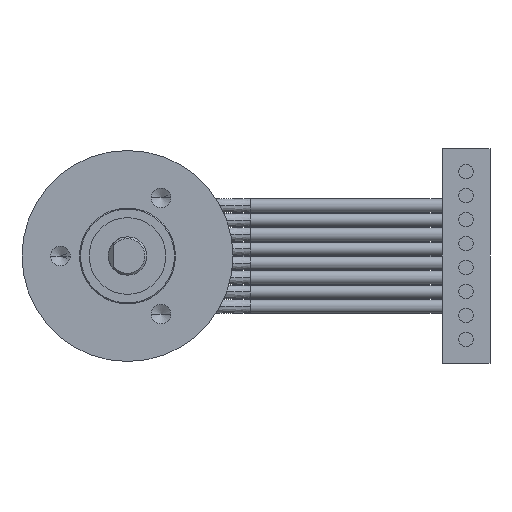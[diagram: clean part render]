
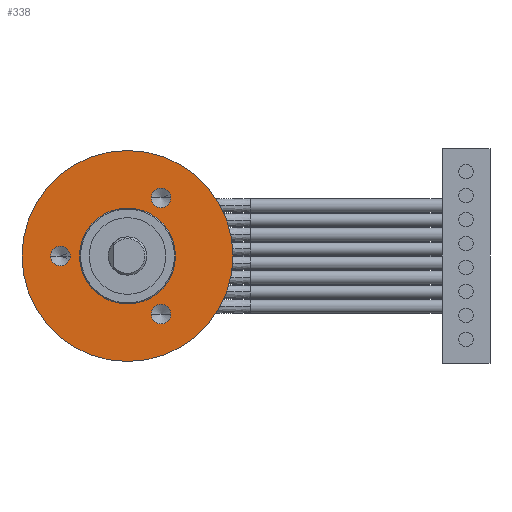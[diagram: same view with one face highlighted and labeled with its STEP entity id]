
A CAD part, left-side view. The second image highlights one B-rep face of the part: STEP entity #338.
In plain terms, the highlighted planar face has unit normal (-1, 0, 0).
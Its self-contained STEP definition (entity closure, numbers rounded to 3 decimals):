
#16 = CIRCLE ( 'NONE', #3891, 11. ) ;
#230 = PLANE ( 'NONE',  #4045 ) ;
#247 = DIRECTION ( 'NONE',  ( 0., 0., -1. ) ) ;
#254 = FACE_BOUND ( 'NONE', #649, .T. ) ;
#338 = ADVANCED_FACE ( 'NONE', ( #7583, #3053, #2860, #254, #1286 ), #230, .F. ) ;
#422 = EDGE_CURVE ( 'NONE', #7646, #2812, #5469, .T. ) ;
#643 = EDGE_CURVE ( 'NONE', #2997, #7526, #6302, .T. ) ;
#649 = EDGE_LOOP ( 'NONE', ( #5418, #6042 ) ) ;
#688 = CARTESIAN_POINT ( 'NONE',  ( 14.85, 0., -5. ) ) ;
#733 = CARTESIAN_POINT ( 'NONE',  ( 14.85, -3.5, 6.062 ) ) ;
#768 = AXIS2_PLACEMENT_3D ( 'NONE', #733, #4915, #1328 ) ;
#861 = EDGE_LOOP ( 'NONE', ( #5402, #2557 ) ) ;
#1031 = CARTESIAN_POINT ( 'NONE',  ( 14.85, 8.025, 0. ) ) ;
#1069 = VERTEX_POINT ( 'NONE', #4663 ) ;
#1124 = ORIENTED_EDGE ( 'NONE', *, *, #422, .F. ) ;
#1286 = FACE_OUTER_BOUND ( 'NONE', #861, .T. ) ;
#1328 = DIRECTION ( 'NONE',  ( 0., -1., 0. ) ) ;
#1440 = EDGE_CURVE ( 'NONE', #2812, #7646, #1571, .T. ) ;
#1545 = DIRECTION ( 'NONE',  ( -1., 0., 0. ) ) ;
#1571 = CIRCLE ( 'NONE', #768, 1.025 ) ;
#1575 = CIRCLE ( 'NONE', #2069, 1.025 ) ;
#1752 = DIRECTION ( 'NONE',  ( 1., 0., 0. ) ) ;
#1888 = DIRECTION ( 'NONE',  ( 1., 0., 0. ) ) ;
#1946 = AXIS2_PLACEMENT_3D ( 'NONE', #7645, #3515, #7042 ) ;
#1987 = DIRECTION ( 'NONE',  ( 0., 0., 1. ) ) ;
#2002 = DIRECTION ( 'NONE',  ( 0., -1., 0. ) ) ;
#2069 = AXIS2_PLACEMENT_3D ( 'NONE', #2588, #6135, #2002 ) ;
#2102 = CARTESIAN_POINT ( 'NONE',  ( 14.85, -4.525, -6.062 ) ) ;
#2121 = CIRCLE ( 'NONE', #2219, 1.025 ) ;
#2152 = AXIS2_PLACEMENT_3D ( 'NONE', #2572, #6118, #1987 ) ;
#2219 = AXIS2_PLACEMENT_3D ( 'NONE', #3143, #7264, #3738 ) ;
#2293 = DIRECTION ( 'NONE',  ( 0., -1., 0. ) ) ;
#2324 = CIRCLE ( 'NONE', #2152, 5. ) ;
#2428 = VERTEX_POINT ( 'NONE', #1031 ) ;
#2511 = ORIENTED_EDGE ( 'NONE', *, *, #2771, .T. ) ;
#2557 = ORIENTED_EDGE ( 'NONE', *, *, #5906, .F. ) ;
#2572 = CARTESIAN_POINT ( 'NONE',  ( 14.85, 0., 0. ) ) ;
#2588 = CARTESIAN_POINT ( 'NONE',  ( 14.85, -3.5, -6.062 ) ) ;
#2691 = VERTEX_POINT ( 'NONE', #2102 ) ;
#2771 = EDGE_CURVE ( 'NONE', #7526, #2997, #2324, .T. ) ;
#2812 = VERTEX_POINT ( 'NONE', #4935 ) ;
#2860 = FACE_BOUND ( 'NONE', #5691, .T. ) ;
#2863 = EDGE_CURVE ( 'NONE', #5806, #1069, #4466, .T. ) ;
#2882 = CARTESIAN_POINT ( 'NONE',  ( 14.85, -3.5, -6.062 ) ) ;
#2997 = VERTEX_POINT ( 'NONE', #6512 ) ;
#3016 = CIRCLE ( 'NONE', #1946, 1.025 ) ;
#3053 = FACE_BOUND ( 'NONE', #4577, .T. ) ;
#3073 = EDGE_CURVE ( 'NONE', #2691, #3669, #6128, .T. ) ;
#3143 = CARTESIAN_POINT ( 'NONE',  ( 14.85, 7., 0. ) ) ;
#3262 = DIRECTION ( 'NONE',  ( 1., 0., 0. ) ) ;
#3515 = DIRECTION ( 'NONE',  ( -1., 0., 0. ) ) ;
#3669 = VERTEX_POINT ( 'NONE', #3849 ) ;
#3738 = DIRECTION ( 'NONE',  ( 0., -1., 0. ) ) ;
#3824 = DIRECTION ( 'NONE',  ( 1., 0., 0. ) ) ;
#3849 = CARTESIAN_POINT ( 'NONE',  ( 14.85, -2.475, -6.062 ) ) ;
#3882 = EDGE_CURVE ( 'NONE', #2428, #4250, #2121, .T. ) ;
#3891 = AXIS2_PLACEMENT_3D ( 'NONE', #7380, #3262, #6787 ) ;
#3901 = AXIS2_PLACEMENT_3D ( 'NONE', #5288, #1752, #5873 ) ;
#4045 = AXIS2_PLACEMENT_3D ( 'NONE', #5003, #3824, #247 ) ;
#4095 = EDGE_CURVE ( 'NONE', #3669, #2691, #1575, .T. ) ;
#4250 = VERTEX_POINT ( 'NONE', #5400 ) ;
#4466 = CIRCLE ( 'NONE', #6520, 11. ) ;
#4577 = EDGE_LOOP ( 'NONE', ( #5799, #5147 ) ) ;
#4663 = CARTESIAN_POINT ( 'NONE',  ( 14.85, 0., -11. ) ) ;
#4915 = DIRECTION ( 'NONE',  ( -1., 0., 0. ) ) ;
#4916 = CARTESIAN_POINT ( 'NONE',  ( 14.85, -4.525, 6.062 ) ) ;
#4935 = CARTESIAN_POINT ( 'NONE',  ( 14.85, -2.475, 6.062 ) ) ;
#5003 = CARTESIAN_POINT ( 'NONE',  ( 14.85, -11.132, 11.132 ) ) ;
#5100 = CARTESIAN_POINT ( 'NONE',  ( 14.85, -3.5, 6.062 ) ) ;
#5147 = ORIENTED_EDGE ( 'NONE', *, *, #4095, .F. ) ;
#5185 = AXIS2_PLACEMENT_3D ( 'NONE', #2882, #6431, #2293 ) ;
#5288 = CARTESIAN_POINT ( 'NONE',  ( 14.85, 0., 0. ) ) ;
#5400 = CARTESIAN_POINT ( 'NONE',  ( 14.85, 5.975, 0. ) ) ;
#5402 = ORIENTED_EDGE ( 'NONE', *, *, #2863, .F. ) ;
#5418 = ORIENTED_EDGE ( 'NONE', *, *, #5508, .F. ) ;
#5437 = DIRECTION ( 'NONE',  ( 0., 0., 1. ) ) ;
#5469 = CIRCLE ( 'NONE', #6807, 1.025 ) ;
#5508 = EDGE_CURVE ( 'NONE', #4250, #2428, #3016, .T. ) ;
#5679 = DIRECTION ( 'NONE',  ( 0., -1., 0. ) ) ;
#5691 = EDGE_LOOP ( 'NONE', ( #1124, #6598 ) ) ;
#5789 = ORIENTED_EDGE ( 'NONE', *, *, #643, .T. ) ;
#5799 = ORIENTED_EDGE ( 'NONE', *, *, #3073, .F. ) ;
#5806 = VERTEX_POINT ( 'NONE', #6439 ) ;
#5873 = DIRECTION ( 'NONE',  ( 0., 0., 1. ) ) ;
#5906 = EDGE_CURVE ( 'NONE', #1069, #5806, #16, .T. ) ;
#6008 = CARTESIAN_POINT ( 'NONE',  ( 14.85, 0., 0. ) ) ;
#6042 = ORIENTED_EDGE ( 'NONE', *, *, #3882, .F. ) ;
#6118 = DIRECTION ( 'NONE',  ( 1., 0., 0. ) ) ;
#6128 = CIRCLE ( 'NONE', #5185, 1.025 ) ;
#6135 = DIRECTION ( 'NONE',  ( -1., 0., 0. ) ) ;
#6302 = CIRCLE ( 'NONE', #3901, 5. ) ;
#6431 = DIRECTION ( 'NONE',  ( -1., 0., 0. ) ) ;
#6439 = CARTESIAN_POINT ( 'NONE',  ( 14.85, 0., 11. ) ) ;
#6512 = CARTESIAN_POINT ( 'NONE',  ( 14.85, 0., 5. ) ) ;
#6514 = EDGE_LOOP ( 'NONE', ( #5789, #2511 ) ) ;
#6520 = AXIS2_PLACEMENT_3D ( 'NONE', #6008, #1888, #5437 ) ;
#6598 = ORIENTED_EDGE ( 'NONE', *, *, #1440, .F. ) ;
#6787 = DIRECTION ( 'NONE',  ( 0., 0., 1. ) ) ;
#6807 = AXIS2_PLACEMENT_3D ( 'NONE', #5100, #1545, #5679 ) ;
#7042 = DIRECTION ( 'NONE',  ( 0., -1., 0. ) ) ;
#7264 = DIRECTION ( 'NONE',  ( -1., 0., 0. ) ) ;
#7380 = CARTESIAN_POINT ( 'NONE',  ( 14.85, 0., 0. ) ) ;
#7526 = VERTEX_POINT ( 'NONE', #688 ) ;
#7583 = FACE_BOUND ( 'NONE', #6514, .T. ) ;
#7645 = CARTESIAN_POINT ( 'NONE',  ( 14.85, 7., 0. ) ) ;
#7646 = VERTEX_POINT ( 'NONE', #4916 ) ;
